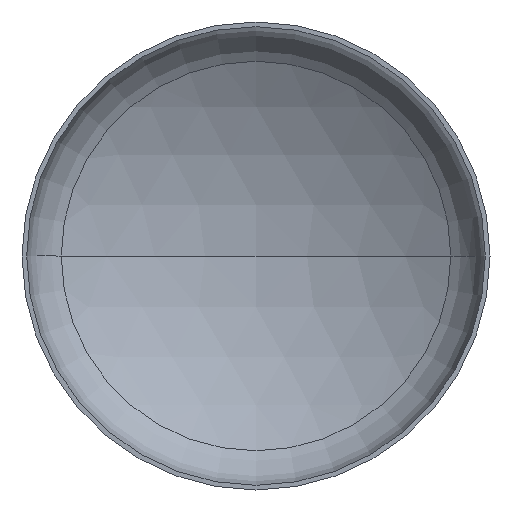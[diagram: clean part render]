
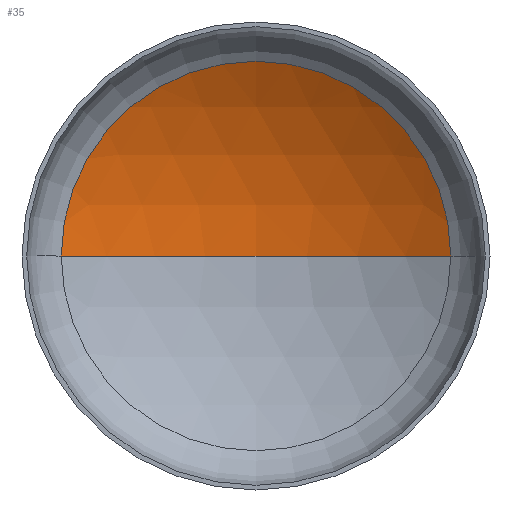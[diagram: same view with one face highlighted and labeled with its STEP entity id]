
A CAD part, front view. The second image highlights one B-rep face of the part: STEP entity #35.
In plain terms, the highlighted spherical face has radius 1040 mm.
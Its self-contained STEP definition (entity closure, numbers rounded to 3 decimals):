
#1 = ORIENTED_EDGE ( 'NONE', *, *, #75, .T. ) ;
#5 = VERTEX_POINT ( 'NONE', #358 ) ;
#8 = DIRECTION ( 'NONE',  ( 1., 0., 0. ) ) ;
#16 = VERTEX_POINT ( 'NONE', #219 ) ;
#30 = SPHERICAL_SURFACE ( 'NONE', #59, 1040. ) ;
#35 = ADVANCED_FACE ( 'NONE', ( #313 ), #30, .F. ) ;
#43 = AXIS2_PLACEMENT_3D ( 'NONE', #276, #113, #8 ) ;
#46 = AXIS2_PLACEMENT_3D ( 'NONE', #141, #340, #172 ) ;
#47 = AXIS2_PLACEMENT_3D ( 'NONE', #176, #180, #161 ) ;
#59 = AXIS2_PLACEMENT_3D ( 'NONE', #264, #228, #217 ) ;
#74 = EDGE_CURVE ( 'NONE', #191, #5, #80, .T. ) ;
#75 = EDGE_CURVE ( 'NONE', #16, #191, #375, .T. ) ;
#80 = CIRCLE ( 'NONE', #47, 541.048 ) ;
#94 = EDGE_CURVE ( 'NONE', #16, #5, #364, .T. ) ;
#113 = DIRECTION ( 'NONE',  ( 0., 0., 1. ) ) ;
#138 = CARTESIAN_POINT ( 'NONE',  ( 541.048, 210.804, 0. ) ) ;
#141 = CARTESIAN_POINT ( 'NONE',  ( 0., -677.378, 0. ) ) ;
#161 = DIRECTION ( 'NONE',  ( 1., 0., 0. ) ) ;
#172 = DIRECTION ( 'NONE',  ( -1., 0., 0. ) ) ;
#176 = CARTESIAN_POINT ( 'NONE',  ( 0., 210.804, 0. ) ) ;
#180 = DIRECTION ( 'NONE',  ( 0., -1., 0. ) ) ;
#191 = VERTEX_POINT ( 'NONE', #138 ) ;
#217 = DIRECTION ( 'NONE',  ( -1., 0., 0. ) ) ;
#219 = CARTESIAN_POINT ( 'NONE',  ( 0., 362.622, 0. ) ) ;
#228 = DIRECTION ( 'NONE',  ( 0., 0., -1. ) ) ;
#264 = CARTESIAN_POINT ( 'NONE',  ( 0., -677.378, 0. ) ) ;
#271 = ORIENTED_EDGE ( 'NONE', *, *, #94, .F. ) ;
#276 = CARTESIAN_POINT ( 'NONE',  ( 0., -677.378, 0. ) ) ;
#313 = FACE_OUTER_BOUND ( 'NONE', #347, .T. ) ;
#332 = ORIENTED_EDGE ( 'NONE', *, *, #74, .T. ) ;
#340 = DIRECTION ( 'NONE',  ( 0., 0., -1. ) ) ;
#347 = EDGE_LOOP ( 'NONE', ( #271, #1, #332 ) ) ;
#358 = CARTESIAN_POINT ( 'NONE',  ( -541.048, 210.804, 0. ) ) ;
#364 = CIRCLE ( 'NONE', #43, 1040. ) ;
#375 = CIRCLE ( 'NONE', #46, 1040. ) ;
